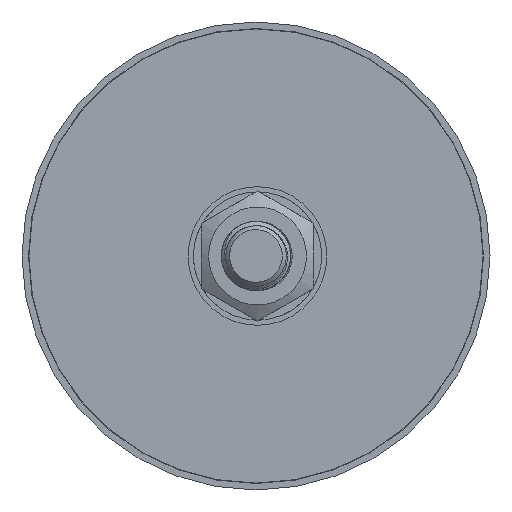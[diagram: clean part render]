
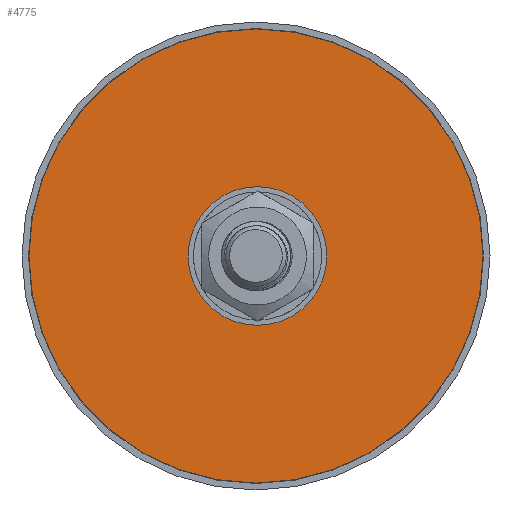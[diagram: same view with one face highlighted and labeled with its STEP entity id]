
A CAD part, front view. The second image highlights one B-rep face of the part: STEP entity #4775.
In plain terms, the highlighted planar face has unit normal (0, -1, 0).
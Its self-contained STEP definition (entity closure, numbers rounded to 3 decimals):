
#1006=FACE_BOUND('',#1487,.T.);
#1169=FACE_OUTER_BOUND('',#1486,.T.);
#1486=EDGE_LOOP('',(#3900));
#1487=EDGE_LOOP('',(#3901,#3902,#3903,#3904));
#1677=B_SPLINE_CURVE_WITH_KNOTS('',3,(#9091,#9092,#9093,#9094,#9095,#9096,
#9097),.UNSPECIFIED.,.F.,.F.,(4,3,4),(-0.549,-0.18,
0.),.UNSPECIFIED.);
#1678=B_SPLINE_CURVE_WITH_KNOTS('',3,(#9319,#9320,#9321,#9322,#9323,#9324,
#9325),.UNSPECIFIED.,.F.,.F.,(4,3,4),(-0.547,-0.165,
0.),.UNSPECIFIED.);
#1929=CIRCLE('',#5045,4.);
#1930=CIRCLE('',#5048,3.5);
#1976=CIRCLE('',#5168,26.2);
#2178=VERTEX_POINT('',#8013);
#2179=VERTEX_POINT('',#8306);
#2182=VERTEX_POINT('',#9037);
#2183=VERTEX_POINT('',#9318);
#2294=VERTEX_POINT('',#13533);
#2701=EDGE_CURVE('',#2178,#2179,#1929,.T.);
#2707=EDGE_CURVE('',#2182,#2178,#1677,.T.);
#2708=EDGE_CURVE('',#2179,#2183,#1678,.T.);
#2716=EDGE_CURVE('',#2183,#2182,#1930,.T.);
#2874=EDGE_CURVE('',#2294,#2294,#1976,.T.);
#3900=ORIENTED_EDGE('',*,*,#2874,.T.);
#3901=ORIENTED_EDGE('',*,*,#2707,.F.);
#3902=ORIENTED_EDGE('',*,*,#2716,.F.);
#3903=ORIENTED_EDGE('',*,*,#2708,.F.);
#3904=ORIENTED_EDGE('',*,*,#2701,.F.);
#4616=PLANE('',#5170);
#4775=ADVANCED_FACE('',(#1169,#1006),#4616,.F.);
#5045=AXIS2_PLACEMENT_3D('',#8307,#5622,#5623);
#5048=AXIS2_PLACEMENT_3D('',#10107,#5629,#5630);
#5168=AXIS2_PLACEMENT_3D('',#13534,#5911,#5912);
#5170=AXIS2_PLACEMENT_3D('',#13537,#5915,#5916);
#5622=DIRECTION('center_axis',(0.,-1.,0.));
#5623=DIRECTION('ref_axis',(-1.,0.,0.));
#5629=DIRECTION('center_axis',(0.,-1.,0.));
#5630=DIRECTION('ref_axis',(0.,0.,-1.));
#5911=DIRECTION('center_axis',(0.,-1.,0.));
#5912=DIRECTION('ref_axis',(-1.,0.,0.));
#5915=DIRECTION('center_axis',(0.,1.,0.));
#5916=DIRECTION('ref_axis',(1.,0.,0.));
#8013=CARTESIAN_POINT('',(0.159,-79.557,-2.973));
#8306=CARTESIAN_POINT('',(3.334,-79.557,-6.441));
#8307=CARTESIAN_POINT('Origin',(4.133,-79.557,-2.521));
#9037=CARTESIAN_POINT('',(3.326,-79.557,0.884));
#9091=CARTESIAN_POINT('Ctrl Pts',(3.326,-79.557,0.884));
#9092=CARTESIAN_POINT('Ctrl Pts',(2.11,-79.557,0.719));
#9093=CARTESIAN_POINT('Ctrl Pts',(1.017,-79.557,-0.125));
#9094=CARTESIAN_POINT('Ctrl Pts',(0.507,-79.557,-1.231));
#9095=CARTESIAN_POINT('Ctrl Pts',(0.259,-79.557,-1.77));
#9096=CARTESIAN_POINT('Ctrl Pts',(0.148,-79.557,-2.369));
#9097=CARTESIAN_POINT('Ctrl Pts',(0.166,-79.557,-2.97));
#9318=CARTESIAN_POINT('',(7.455,-79.557,-3.625));
#9319=CARTESIAN_POINT('Ctrl Pts',(3.334,-79.557,-6.441));
#9320=CARTESIAN_POINT('Ctrl Pts',(4.603,-79.557,-6.587));
#9321=CARTESIAN_POINT('Ctrl Pts',(5.941,-79.557,-6.075));
#9322=CARTESIAN_POINT('Ctrl Pts',(6.739,-79.557,-5.096));
#9323=CARTESIAN_POINT('Ctrl Pts',(7.085,-79.557,-4.672));
#9324=CARTESIAN_POINT('Ctrl Pts',(7.327,-79.557,-4.164));
#9325=CARTESIAN_POINT('Ctrl Pts',(7.448,-79.557,-3.624));
#10107=CARTESIAN_POINT('Origin',(4.133,-79.557,-2.521));
#13533=CARTESIAN_POINT('',(30.333,-79.557,-2.521));
#13534=CARTESIAN_POINT('Origin',(4.133,-79.557,-2.521));
#13537=CARTESIAN_POINT('Origin',(4.133,-79.557,-2.521));
